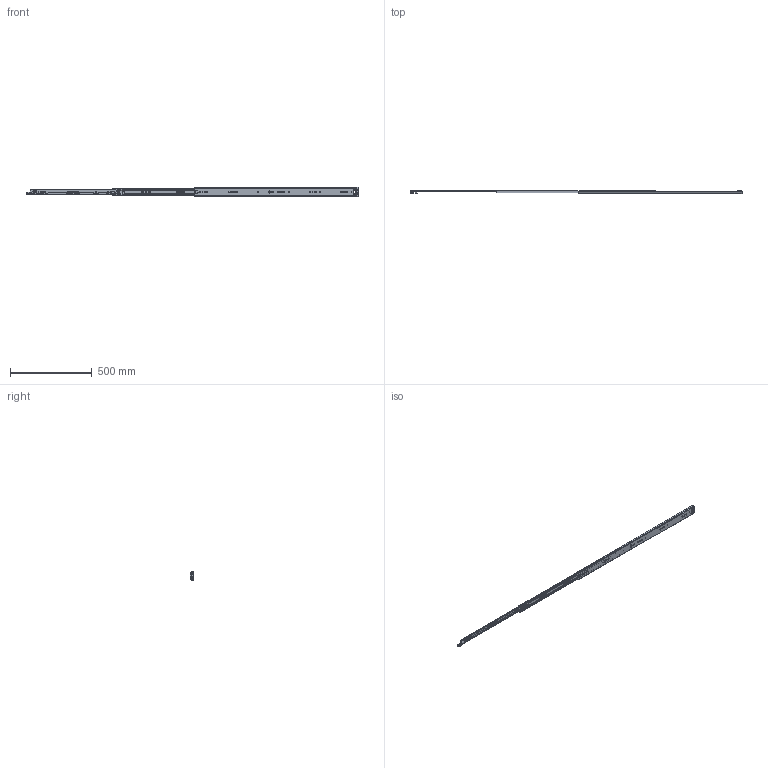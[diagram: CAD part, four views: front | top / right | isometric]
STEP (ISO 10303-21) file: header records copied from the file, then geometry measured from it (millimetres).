
FILE_DESCRIPTION((''),'2;1');
FILE_NAME('KP-57-01ZUZHUANGTU-40_ASM','2023-04-01T',('jishu015'),(''),'PRO/ENGINEER BY PARAMETRIC TECHNOLOGY CORPORATION, 2010280','PRO/ENGINEER BY PARAMETRIC TECHNOLOGY CORPORATION, 2010280','');
FILE_SCHEMA(('CONFIG_CONTROL_DESIGN'));
Products named in the file (22): KP-57-01WEIKE-18______; 1057WEIJIAO______; WAIKE_____ASM; KP-57-01ZHONGGUI-18______; ZHONGGUIPEIJIAN-11____; ZHONGGUISUOKOU-11____; KP-57-01ZHONGGUI-18_______ASM; 1057XIAOZHUJIA______; 1057-5-6GANZHU______; 1057XIAOZHUJIA-14GE_______ASM; KP-57-01NEIGUI-18______; PJ-57-08____; DIAOPIAN-11____; 50XINSUOKOU-1____; TANHUANG____; 1053-3SBANJI122__; JIAO11__; KP-57-01NEIGUI-18_______ASM; 1053ZHUTIAO-175__________; 53-5-6GANZHU__________; 1053ZHUTIAO-175MM_____ASM; KP-57-01ZUZHUANGTU-40_ASM
Assembly tree (110 placements, depth 3):
  KP-57-01ZUZHUANGTU-40_ASM
    WAIKE_____ASM
      KP-57-01WEIKE-18______
      1057WEIJIAO______
    KP-57-01ZHONGGUI-18_______ASM
      KP-57-01ZHONGGUI-18______
      ZHONGGUIPEIJIAN-11____
      ZHONGGUISUOKOU-11____
    1057XIAOZHUJIA-14GE_______ASM
      1057XIAOZHUJIA______
      1057-5-6GANZHU______  x72
    KP-57-01NEIGUI-18_______ASM
      KP-57-01NEIGUI-18______
      PJ-57-08____
      DIAOPIAN-11____
      50XINSUOKOU-1____
      TANHUANG____
      1053-3SBANJI122__
      JIAO11__
    1053ZHUTIAO-175MM_____ASM  x2
      1053ZHUTIAO-175__________
      53-5-6GANZHU__________
Bounding box: 2026.92 x 19 x 57.67 mm (x, y, z)
Volume: 439596.9 mm3; surface area: 480146.8 mm2
Topology: 125 solids, 125 shells, 2994 faces, 8664 edges, 5391 vertices
Faces by surface type: cylinder 1313, plane 1188, sphere 227, bspline 134, cone 84, torus 25, extrusion 23
Entity records: 95919 total; most frequent: CARTESIAN_POINT 23525, ORIENTED_EDGE 15324, DIRECTION 14939, EDGE_CURVE 7662, AXIS2_PLACEMENT_3D 5169, VERTEX_POINT 4947, VECTOR 4601, LINE 4578
